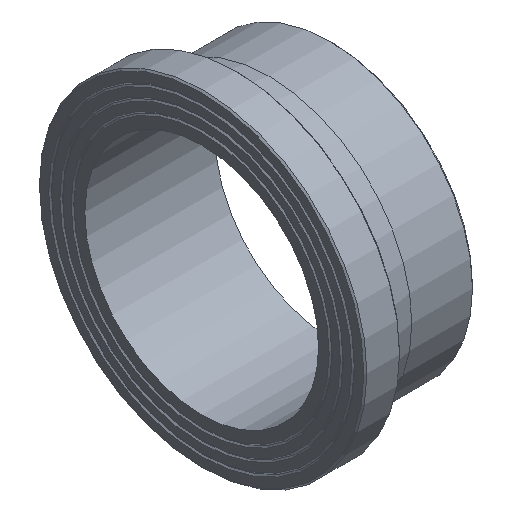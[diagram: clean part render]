
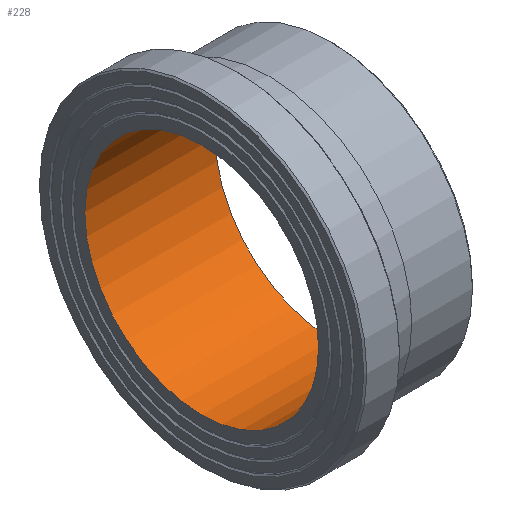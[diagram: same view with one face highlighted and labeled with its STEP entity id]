
A CAD part, isometric view. The second image highlights one B-rep face of the part: STEP entity #228.
In plain terms, the highlighted cylindrical face has radius 114.6 mm (diameter 229.2 mm), a full revolution.
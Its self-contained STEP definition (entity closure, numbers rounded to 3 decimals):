
#33=CYLINDRICAL_SURFACE('',#274,114.6);
#50=ORIENTED_EDGE('',*,*,#79,.F.);
#51=ORIENTED_EDGE('',*,*,#76,.T.);
#76=EDGE_CURVE('',#96,#96,#116,.T.);
#79=EDGE_CURVE('',#99,#99,#119,.T.);
#96=VERTEX_POINT('',#383);
#99=VERTEX_POINT('',#390);
#116=CIRCLE('',#257,114.6);
#119=CIRCLE('',#261,114.6);
#150=EDGE_LOOP('',(#50));
#151=EDGE_LOOP('',(#51));
#190=FACE_BOUND('',#150,.T.);
#191=FACE_BOUND('',#151,.T.);
#228=ADVANCED_FACE('',(#190,#191),#33,.F.);
#257=AXIS2_PLACEMENT_3D('',#382,#303,#304);
#261=AXIS2_PLACEMENT_3D('',#389,#311,#312);
#274=AXIS2_PLACEMENT_3D('',#410,#337,#338);
#303=DIRECTION('',(-1.,0.,0.));
#304=DIRECTION('',(0.,0.,1.));
#311=DIRECTION('',(-1.,0.,0.));
#312=DIRECTION('',(0.,0.,1.));
#337=DIRECTION('',(-1.,0.,0.));
#338=DIRECTION('',(0.,0.,1.));
#382=CARTESIAN_POINT('',(0.,0.,0.));
#383=CARTESIAN_POINT('',(0.,0.,114.6));
#389=CARTESIAN_POINT('',(128.,0.,0.));
#390=CARTESIAN_POINT('',(128.,0.,114.6));
#410=CARTESIAN_POINT('',(60.,0.,0.));
